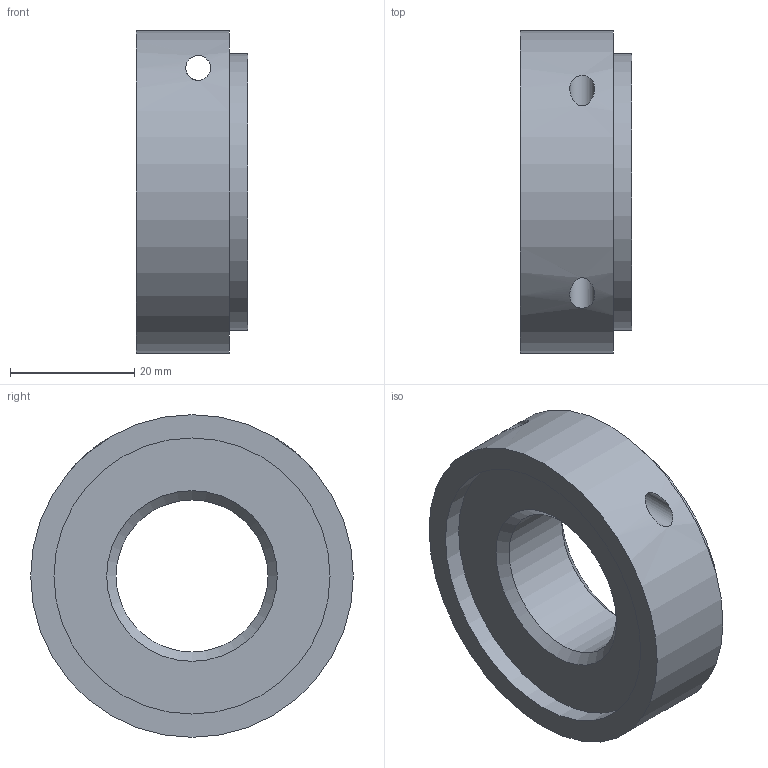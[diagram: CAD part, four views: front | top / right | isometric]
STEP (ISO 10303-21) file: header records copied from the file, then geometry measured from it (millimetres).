
FILE_DESCRIPTION( ( 'Unknown' ), '1' );
FILE_NAME( 'F:/navkite transat/construction/2016/3D ET ASSEMBLAGES/kites/Embase valve 3-4.stp', 'Unknown', ( 'GMA' ), ( 'Unknown' ), 'XStep 1.0', 'Unknown', ' ' );
FILE_SCHEMA( ( 'automotive_design' ) );
Length unit declared in the file: millimetre
Products named in the file (1): 1
Bounding box: 18 x 52 x 52 mm (x, y, z)
Volume: 24188.3 mm3; surface area: 7992.9 mm2
Topology: 1 solids, 1 shells, 11 faces, 21 edges, 14 vertices
Faces by surface type: cylinder 5, plane 4, cone 2
Full cylindrical faces by diameter (mm): 4 x1, 24.5 x1, 44.5 x2, 52 x1
Entity records: 442 total; most frequent: CARTESIAN_POINT 138, DIRECTION 44, EDGE_LOOP 24, ORIENTED_EDGE 24, AXIS2_PLACEMENT_3D 22, FACE_OUTER_BOUND 16, EDGE_CURVE 12, VERTEX_POINT 12
